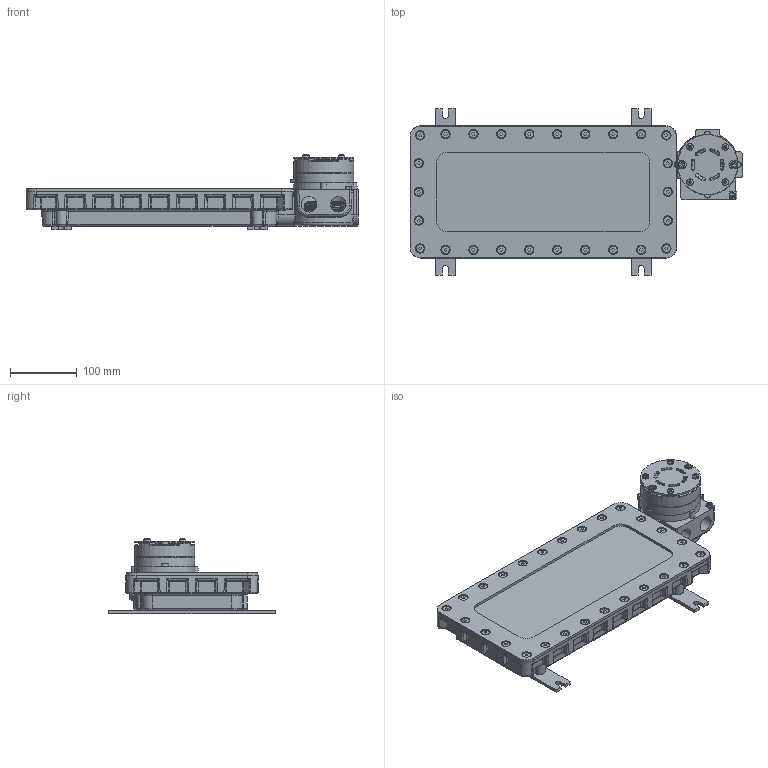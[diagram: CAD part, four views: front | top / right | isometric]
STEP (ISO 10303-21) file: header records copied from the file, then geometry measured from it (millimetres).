
FILE_DESCRIPTION((''),'2;1');
FILE_NAME('\\192.168.5.25\cortem_klient\INVENTOR БАЗА МОДЕЛЕЙ\Актуальная база моделей для отдела продаж\ПГСК04\ПГСК04.stp','2020-04-08T14:03:02',('K.S.Bezzubikov'),(''),'Autodesk Inventor 2012','Autodesk Inventor 2012','');
FILE_SCHEMA(('AUTOMOTIVE_DESIGN { 1 0 10303 214 1 1 1 1 }'));
Length unit declared in the file: millimetre
Products named in the file (1): ПГСК04-24DC_ПОЖАР_Б_К 4 отв. М25х1,5_ЛНД_Внешний контур_1
Bounding box: 498.9 x 250 x 112.82 mm (x, y, z)
Volume: 2954995.3 mm3; surface area: 553235.7 mm2
Topology: 4 solids, 79 shells, 3076 faces, 7671 edges, 4733 vertices
Faces by surface type: plane 1194, cylinder 849, bspline 512, cone 277, torus 133, sphere 111
Full cylindrical faces by diameter (mm): 3 x3, 3.2 x8, 3.242 x1, 4.1 x8, 4.6 x5, 4.9 x28, 5 x7, 5.5 x4, 5.7 x2, 6 x1, 6.6 x5, 6.9 x2, 7 x26, 7.962 x2, 9 x8, 10 x4, 12 x26, 15 x1, 16 x4, 18 x1, 23.4 x4, 25 x1, 41 x1, 47 x1, 49 x1, 53 x1, 54.4 x1, 58 x2, 63 x1, 67 x1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
Entity records: 103196 total; most frequent: CARTESIAN_POINT 32333, ORIENTED_EDGE 14020, DIRECTION 13705, EDGE_CURVE 7010, AXIS2_PLACEMENT_3D 5184, VERTEX_POINT 4487, EDGE_LOOP 3599, VECTOR 3337
